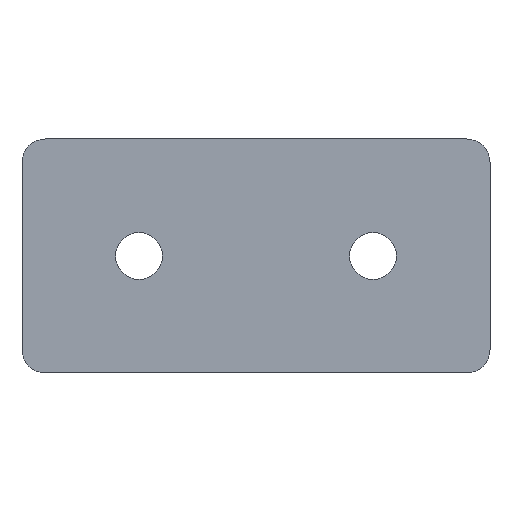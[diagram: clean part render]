
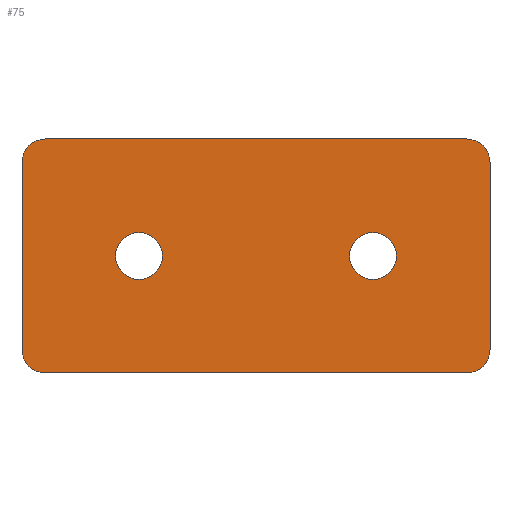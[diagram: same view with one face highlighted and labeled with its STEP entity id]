
A CAD part, front view. The second image highlights one B-rep face of the part: STEP entity #75.
In plain terms, the highlighted planar face has unit normal (0, -1, 0).
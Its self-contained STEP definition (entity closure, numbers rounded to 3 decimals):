
#75 = ADVANCED_FACE( '', ( #88, #89, #90 ), #91, .F. );
#88 = FACE_BOUND( '', #118, .T. );
#89 = FACE_BOUND( '', #119, .T. );
#90 = FACE_OUTER_BOUND( '', #120, .T. );
#91 = PLANE( '', #121 );
#118 = EDGE_LOOP( '', ( #148 ) );
#119 = EDGE_LOOP( '', ( #149 ) );
#120 = EDGE_LOOP( '', ( #150, #151, #152, #153, #154, #155, #156, #157 ) );
#121 = AXIS2_PLACEMENT_3D( '', #158, #159, #160 );
#148 = ORIENTED_EDGE( '', *, *, #240, .F. );
#149 = ORIENTED_EDGE( '', *, *, #241, .F. );
#150 = ORIENTED_EDGE( '', *, *, #242, .F. );
#151 = ORIENTED_EDGE( '', *, *, #243, .F. );
#152 = ORIENTED_EDGE( '', *, *, #244, .F. );
#153 = ORIENTED_EDGE( '', *, *, #245, .F. );
#154 = ORIENTED_EDGE( '', *, *, #246, .F. );
#155 = ORIENTED_EDGE( '', *, *, #247, .F. );
#156 = ORIENTED_EDGE( '', *, *, #248, .F. );
#157 = ORIENTED_EDGE( '', *, *, #249, .F. );
#158 = CARTESIAN_POINT( '', ( -36., 0., -16. ) );
#159 = DIRECTION( '', ( 0., 1., 0. ) );
#160 = DIRECTION( '', ( 0., 0., 1. ) );
#240 = EDGE_CURVE( '', #268, #268, #269, .T. );
#241 = EDGE_CURVE( '', #270, #270, #271, .T. );
#242 = EDGE_CURVE( '', #272, #273, #274, .T. );
#243 = EDGE_CURVE( '', #275, #272, #276, .T. );
#244 = EDGE_CURVE( '', #277, #275, #278, .T. );
#245 = EDGE_CURVE( '', #279, #277, #280, .T. );
#246 = EDGE_CURVE( '', #281, #279, #282, .T. );
#247 = EDGE_CURVE( '', #283, #281, #284, .T. );
#248 = EDGE_CURVE( '', #285, #283, #286, .T. );
#249 = EDGE_CURVE( '', #273, #285, #287, .T. );
#268 = VERTEX_POINT( '', #316 );
#269 = CIRCLE( '', #317, 4. );
#270 = VERTEX_POINT( '', #318 );
#271 = CIRCLE( '', #319, 4. );
#272 = VERTEX_POINT( '', #320 );
#273 = VERTEX_POINT( '', #321 );
#274 = CIRCLE( '', #322, 4. );
#275 = VERTEX_POINT( '', #323 );
#276 = LINE( '', #324, #325 );
#277 = VERTEX_POINT( '', #326 );
#278 = CIRCLE( '', #327, 4. );
#279 = VERTEX_POINT( '', #328 );
#280 = LINE( '', #329, #330 );
#281 = VERTEX_POINT( '', #331 );
#282 = CIRCLE( '', #332, 4. );
#283 = VERTEX_POINT( '', #333 );
#284 = LINE( '', #334, #335 );
#285 = VERTEX_POINT( '', #336 );
#286 = CIRCLE( '', #337, 4. );
#287 = LINE( '', #338, #339 );
#316 = CARTESIAN_POINT( '', ( -20., 0., -4. ) );
#317 = AXIS2_PLACEMENT_3D( '', #380, #381, #382 );
#318 = CARTESIAN_POINT( '', ( 20., 0., -4. ) );
#319 = AXIS2_PLACEMENT_3D( '', #383, #384, #385 );
#320 = CARTESIAN_POINT( '', ( -36., 0., -20. ) );
#321 = CARTESIAN_POINT( '', ( -40., 0., -16. ) );
#322 = AXIS2_PLACEMENT_3D( '', #386, #387, #388 );
#323 = CARTESIAN_POINT( '', ( 36., 0., -20. ) );
#324 = CARTESIAN_POINT( '', ( 36., 0., -20. ) );
#325 = VECTOR( '', #389, 1000. );
#326 = CARTESIAN_POINT( '', ( 40., 0., -16. ) );
#327 = AXIS2_PLACEMENT_3D( '', #390, #391, #392 );
#328 = CARTESIAN_POINT( '', ( 40., 0., 16. ) );
#329 = CARTESIAN_POINT( '', ( 40., 0., 16. ) );
#330 = VECTOR( '', #393, 1000. );
#331 = CARTESIAN_POINT( '', ( 36., 0., 20. ) );
#332 = AXIS2_PLACEMENT_3D( '', #394, #395, #396 );
#333 = CARTESIAN_POINT( '', ( -36., 0., 20. ) );
#334 = CARTESIAN_POINT( '', ( -36., 0., 20. ) );
#335 = VECTOR( '', #397, 1000. );
#336 = CARTESIAN_POINT( '', ( -40., 0., 16. ) );
#337 = AXIS2_PLACEMENT_3D( '', #398, #399, #400 );
#338 = CARTESIAN_POINT( '', ( -40., 0., -16. ) );
#339 = VECTOR( '', #401, 1000. );
#380 = CARTESIAN_POINT( '', ( -20., 0., 0. ) );
#381 = DIRECTION( '', ( 0., -1., 0. ) );
#382 = DIRECTION( '', ( 0., 0., -1. ) );
#383 = CARTESIAN_POINT( '', ( 20., 0., 0. ) );
#384 = DIRECTION( '', ( 0., -1., 0. ) );
#385 = DIRECTION( '', ( 0., 0., -1. ) );
#386 = CARTESIAN_POINT( '', ( -36., 0., -16. ) );
#387 = DIRECTION( '', ( 0., 1., 0. ) );
#388 = DIRECTION( '', ( 1., 0., 0. ) );
#389 = DIRECTION( '', ( -1., 0., 0. ) );
#390 = CARTESIAN_POINT( '', ( 36., 0., -16. ) );
#391 = DIRECTION( '', ( 0., 1., 0. ) );
#392 = DIRECTION( '', ( 1., 0., 0. ) );
#393 = DIRECTION( '', ( 0., 0., -1. ) );
#394 = CARTESIAN_POINT( '', ( 36., 0., 16. ) );
#395 = DIRECTION( '', ( 0., 1., 0. ) );
#396 = DIRECTION( '', ( 1., 0., 0. ) );
#397 = DIRECTION( '', ( 1., 0., 0. ) );
#398 = CARTESIAN_POINT( '', ( -36., 0., 16. ) );
#399 = DIRECTION( '', ( 0., 1., 0. ) );
#400 = DIRECTION( '', ( 1., 0., 0. ) );
#401 = DIRECTION( '', ( 0., 0., 1. ) );
